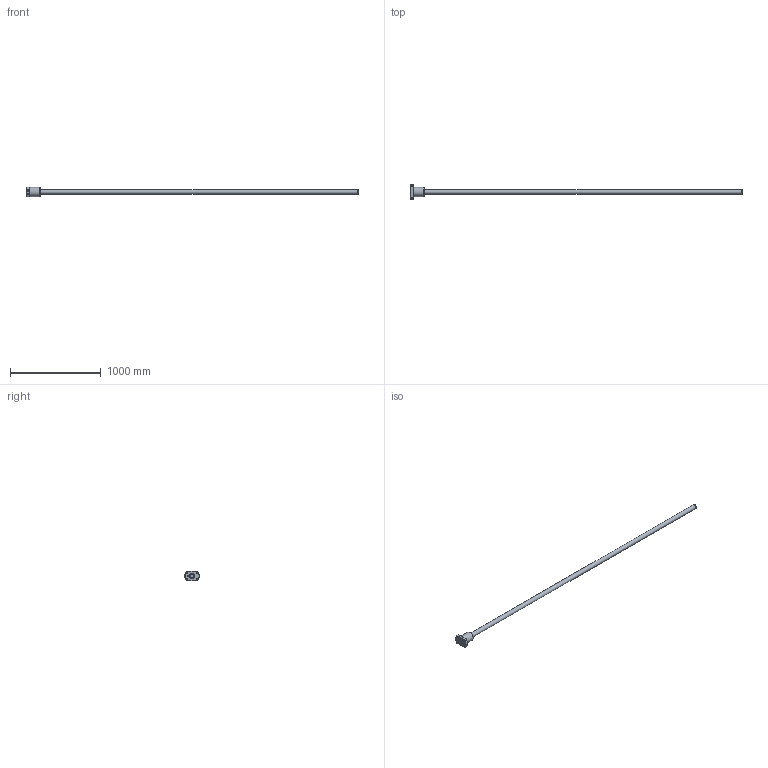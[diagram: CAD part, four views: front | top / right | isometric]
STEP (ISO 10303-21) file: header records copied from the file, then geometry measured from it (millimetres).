
FILE_DESCRIPTION( ( 'STEP AP203' ), ' ' );
FILE_NAME( 'p:/temp/worker_13/552_1568/app_70_12018011810543648142801818fa3fd_000000_00_00_000000/format_0/BTK 5016V-5.3ZZ+3665LT_35000.stp', '2018-01-18T09:54:37', ( '' ), ( '' ), ' ', 'PARTsolutions', ' ' );
FILE_SCHEMA( ( 'CONFIG_CONTROL_DESIGN' ) );
Length unit declared in the file: millimetre
Products named in the file (3): BTK 5016V-5.3ZZ+3665LT_35000; _BTK 5016V-5.33500 Shaft; _BTK 5016V-5.3ZZ Nut
Assembly tree (2 placements, depth 2):
  BTK 5016V-5.3ZZ+3665LT_35000
    _BTK 5016V-5.33500 Shaft
    _BTK 5016V-5.3ZZ Nut
Bounding box: 3665 x 162 x 104 mm (x, y, z)
Volume: 8224596.3 mm3; surface area: 690096.1 mm2
Topology: 2 solids, 2 shells, 40 faces, 87 edges, 57 vertices
Faces by surface type: cylinder 17, plane 14, cone 9
Full cylindrical faces by diameter (mm): 8.566 x1, 18 x4, 40 x2, 50 x4, 60 x2, 91.8 x1, 102 x1
Entity records: 1242 total; most frequent: CARTESIAN_POINT 315, DIRECTION 180, ORIENTED_EDGE 128, AXIS2_PLACEMENT_3D 84, EDGE_LOOP 77, EDGE_CURVE 64, FACE_OUTER_BOUND 55, VERTEX_POINT 53
